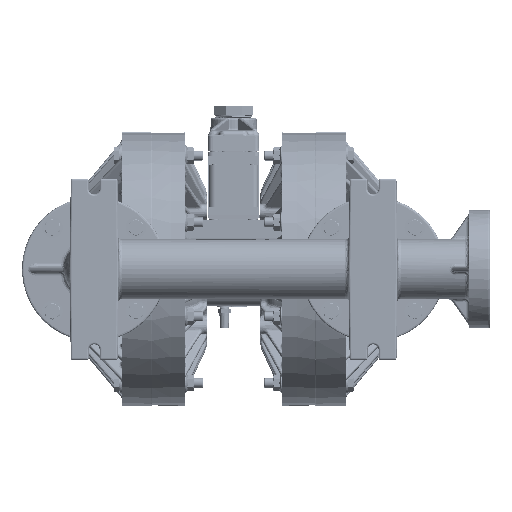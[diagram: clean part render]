
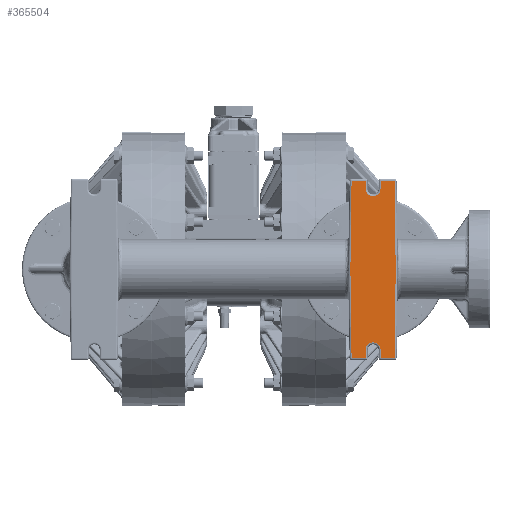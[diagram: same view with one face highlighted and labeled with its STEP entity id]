
A CAD part, front view. The second image highlights one B-rep face of the part: STEP entity #365504.
In plain terms, the highlighted planar face has unit normal (0, -1, 0).
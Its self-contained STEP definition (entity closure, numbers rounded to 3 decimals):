
#899 = PLANE ( 'NONE',  #498110 ) ;
#1231 = CARTESIAN_POINT ( 'NONE',  ( 8.232, -15.22, 0. ) ) ;
#2925 = CIRCLE ( 'NONE', #116353, 0.38 ) ;
#26014 = CARTESIAN_POINT ( 'NONE',  ( 5.992, -15.22, 4.51 ) ) ;
#30748 = ORIENTED_EDGE ( 'NONE', *, *, #302256, .T. ) ;
#38390 = CARTESIAN_POINT ( 'NONE',  ( 6.702, -15.22, 4.09 ) ) ;
#40743 = VERTEX_POINT ( 'NONE', #632184 ) ;
#43754 = DIRECTION ( 'NONE',  ( -1., 0., 0. ) ) ;
#46063 = VECTOR ( 'NONE', #43754, 39.37 ) ;
#48419 = VECTOR ( 'NONE', #72187, 39.37 ) ;
#56512 = CARTESIAN_POINT ( 'NONE',  ( 6.702, -15.22, -4.51 ) ) ;
#59827 = CARTESIAN_POINT ( 'NONE',  ( 6.702, -15.22, -4.09 ) ) ;
#62715 = LINE ( 'NONE', #774308, #621342 ) ;
#63789 = DIRECTION ( 'NONE',  ( 0., 0., -1. ) ) ;
#68918 = CARTESIAN_POINT ( 'NONE',  ( 8.173, -15.22, -4.51 ) ) ;
#72187 = DIRECTION ( 'NONE',  ( -1., 0., 0. ) ) ;
#76089 = DIRECTION ( 'NONE',  ( 1., 0., 0. ) ) ;
#83818 = LINE ( 'NONE', #370972, #48419 ) ;
#86706 = VERTEX_POINT ( 'NONE', #233766 ) ;
#109602 = VECTOR ( 'NONE', #511893, 39.37 ) ;
#116353 = AXIS2_PLACEMENT_3D ( 'NONE', #149500, #204600, #444361 ) ;
#123144 = EDGE_CURVE ( 'NONE', #205212, #159922, #2925, .T. ) ;
#126622 = DIRECTION ( 'NONE',  ( 0., -1., 0. ) ) ;
#135781 = EDGE_CURVE ( 'NONE', #266134, #410234, #661564, .T. ) ;
#136723 = VERTEX_POINT ( 'NONE', #760725 ) ;
#137920 = ORIENTED_EDGE ( 'NONE', *, *, #516282, .T. ) ;
#149500 = CARTESIAN_POINT ( 'NONE',  ( 7.083, -15.22, -4.09 ) ) ;
#153074 = VECTOR ( 'NONE', #554151, 39.37 ) ;
#159922 = VERTEX_POINT ( 'NONE', #585938 ) ;
#173621 = ORIENTED_EDGE ( 'NONE', *, *, #135781, .T. ) ;
#174436 = DIRECTION ( 'NONE',  ( 0., 0., 1. ) ) ;
#180639 = DIRECTION ( 'NONE',  ( 0., 0., 1. ) ) ;
#185596 = CARTESIAN_POINT ( 'NONE',  ( -5.833, -15.22, 4.61 ) ) ;
#185909 = DIRECTION ( 'NONE',  ( -0.013, 0., 1. ) ) ;
#189051 = ORIENTED_EDGE ( 'NONE', *, *, #611195, .T. ) ;
#194414 = VERTEX_POINT ( 'NONE', #290501 ) ;
#195751 = CARTESIAN_POINT ( 'NONE',  ( 7.083, -15.22, 4.09 ) ) ;
#197720 = VECTOR ( 'NONE', #185909, 39.37 ) ;
#204600 = DIRECTION ( 'NONE',  ( 0., 1., 0. ) ) ;
#205212 = VERTEX_POINT ( 'NONE', #59827 ) ;
#207207 = VERTEX_POINT ( 'NONE', #740652 ) ;
#210750 = DIRECTION ( 'NONE',  ( -0.013, 0., -1. ) ) ;
#211508 = ORIENTED_EDGE ( 'NONE', *, *, #614364, .T. ) ;
#220709 = LINE ( 'NONE', #641251, #46063 ) ;
#233766 = CARTESIAN_POINT ( 'NONE',  ( 5.992, -15.22, 4.51 ) ) ;
#240436 = CIRCLE ( 'NONE', #679779, 0.38 ) ;
#266134 = VERTEX_POINT ( 'NONE', #346364 ) ;
#268461 = CARTESIAN_POINT ( 'NONE',  ( 7.463, -15.22, -4.51 ) ) ;
#268675 = CARTESIAN_POINT ( 'NONE',  ( 5.933, -15.22, 0. ) ) ;
#290501 = CARTESIAN_POINT ( 'NONE',  ( 6.702, -15.22, 4.51 ) ) ;
#302256 = EDGE_CURVE ( 'NONE', #324977, #559359, #240436, .T. ) ;
#304398 = EDGE_LOOP ( 'NONE', ( #516937, #211508, #350890, #670397, #173621, #589572, #189051, #30748, #663094, #375663, #706229, #489462, #736774, #137920 ) ) ;
#305746 = VECTOR ( 'NONE', #210750, 39.37 ) ;
#314768 = EDGE_CURVE ( 'NONE', #353047, #207207, #732493, .T. ) ;
#324977 = VERTEX_POINT ( 'NONE', #530429 ) ;
#327263 = CARTESIAN_POINT ( 'NONE',  ( 5.992, -15.22, -4.51 ) ) ;
#346364 = CARTESIAN_POINT ( 'NONE',  ( 8.232, -15.22, 0. ) ) ;
#350890 = ORIENTED_EDGE ( 'NONE', *, *, #314768, .T. ) ;
#353047 = VERTEX_POINT ( 'NONE', #486318 ) ;
#356924 = EDGE_CURVE ( 'NONE', #86706, #136723, #741478, .T. ) ;
#365504 = ADVANCED_FACE ( 'NONE', ( #665114 ), #899, .T. ) ;
#370972 = CARTESIAN_POINT ( 'NONE',  ( 8.173, -15.22, 4.51 ) ) ;
#375663 = ORIENTED_EDGE ( 'NONE', *, *, #469636, .T. ) ;
#381177 = CARTESIAN_POINT ( 'NONE',  ( 7.463, -15.22, -4.09 ) ) ;
#386408 = VERTEX_POINT ( 'NONE', #492999 ) ;
#388015 = EDGE_CURVE ( 'NONE', #207207, #266134, #685701, .T. ) ;
#393382 = VERTEX_POINT ( 'NONE', #700116 ) ;
#410234 = VERTEX_POINT ( 'NONE', #616278 ) ;
#410446 = EDGE_CURVE ( 'NONE', #386408, #393382, #618261, .T. ) ;
#431581 = DIRECTION ( 'NONE',  ( 0., 1., 0. ) ) ;
#433326 = VECTOR ( 'NONE', #618662, 39.37 ) ;
#444361 = DIRECTION ( 'NONE',  ( -1., 0., 0. ) ) ;
#469636 = EDGE_CURVE ( 'NONE', #194414, #86706, #220709, .T. ) ;
#486318 = CARTESIAN_POINT ( 'NONE',  ( 7.463, -15.22, -4.51 ) ) ;
#489462 = ORIENTED_EDGE ( 'NONE', *, *, #671730, .T. ) ;
#492999 = CARTESIAN_POINT ( 'NONE',  ( 5.992, -15.22, -4.51 ) ) ;
#496870 = VECTOR ( 'NONE', #76089, 39.37 ) ;
#498110 = AXIS2_PLACEMENT_3D ( 'NONE', #185596, #126622, #63789 ) ;
#502358 = VECTOR ( 'NONE', #729262, 39.37 ) ;
#511893 = DIRECTION ( 'NONE',  ( 1., 0., 0. ) ) ;
#516282 = EDGE_CURVE ( 'NONE', #393382, #205212, #587260, .T. ) ;
#516937 = ORIENTED_EDGE ( 'NONE', *, *, #123144, .T. ) ;
#517036 = LINE ( 'NONE', #752954, #630605 ) ;
#530429 = CARTESIAN_POINT ( 'NONE',  ( 7.463, -15.22, 4.09 ) ) ;
#554151 = DIRECTION ( 'NONE',  ( 0., 0., -1. ) ) ;
#559359 = VERTEX_POINT ( 'NONE', #38390 ) ;
#563484 = LINE ( 'NONE', #268675, #433326 ) ;
#585938 = CARTESIAN_POINT ( 'NONE',  ( 7.463, -15.22, -4.09 ) ) ;
#587260 = LINE ( 'NONE', #56512, #608933 ) ;
#589572 = ORIENTED_EDGE ( 'NONE', *, *, #598555, .T. ) ;
#598555 = EDGE_CURVE ( 'NONE', #410234, #40743, #83818, .T. ) ;
#608933 = VECTOR ( 'NONE', #174436, 39.37 ) ;
#611195 = EDGE_CURVE ( 'NONE', #40743, #324977, #517036, .T. ) ;
#614364 = EDGE_CURVE ( 'NONE', #159922, #353047, #738891, .T. ) ;
#616278 = CARTESIAN_POINT ( 'NONE',  ( 8.173, -15.22, 4.51 ) ) ;
#618261 = LINE ( 'NONE', #327263, #109602 ) ;
#618662 = DIRECTION ( 'NONE',  ( 0.013, 0., -1. ) ) ;
#621342 = VECTOR ( 'NONE', #180639, 39.37 ) ;
#630605 = VECTOR ( 'NONE', #760748, 39.37 ) ;
#632184 = CARTESIAN_POINT ( 'NONE',  ( 7.463, -15.22, 4.51 ) ) ;
#641251 = CARTESIAN_POINT ( 'NONE',  ( 6.702, -15.22, 4.51 ) ) ;
#661564 = LINE ( 'NONE', #1231, #197720 ) ;
#663094 = ORIENTED_EDGE ( 'NONE', *, *, #671484, .T. ) ;
#665114 = FACE_OUTER_BOUND ( 'NONE', #304398, .T. ) ;
#670397 = ORIENTED_EDGE ( 'NONE', *, *, #388015, .T. ) ;
#671356 = DIRECTION ( 'NONE',  ( 1., 0., 0. ) ) ;
#671484 = EDGE_CURVE ( 'NONE', #559359, #194414, #62715, .T. ) ;
#671730 = EDGE_CURVE ( 'NONE', #136723, #386408, #563484, .T. ) ;
#679779 = AXIS2_PLACEMENT_3D ( 'NONE', #195751, #431581, #671356 ) ;
#685701 = LINE ( 'NONE', #68918, #502358 ) ;
#700116 = CARTESIAN_POINT ( 'NONE',  ( 6.702, -15.22, -4.51 ) ) ;
#706229 = ORIENTED_EDGE ( 'NONE', *, *, #356924, .T. ) ;
#729262 = DIRECTION ( 'NONE',  ( 0.013, 0., 1. ) ) ;
#732493 = LINE ( 'NONE', #268461, #496870 ) ;
#736774 = ORIENTED_EDGE ( 'NONE', *, *, #410446, .T. ) ;
#738891 = LINE ( 'NONE', #381177, #153074 ) ;
#740652 = CARTESIAN_POINT ( 'NONE',  ( 8.173, -15.22, -4.51 ) ) ;
#741478 = LINE ( 'NONE', #26014, #305746 ) ;
#752954 = CARTESIAN_POINT ( 'NONE',  ( 7.463, -15.22, 4.51 ) ) ;
#760725 = CARTESIAN_POINT ( 'NONE',  ( 5.933, -15.22, 0. ) ) ;
#760748 = DIRECTION ( 'NONE',  ( 0., 0., -1. ) ) ;
#774308 = CARTESIAN_POINT ( 'NONE',  ( 6.702, -15.22, 4.09 ) ) ;
